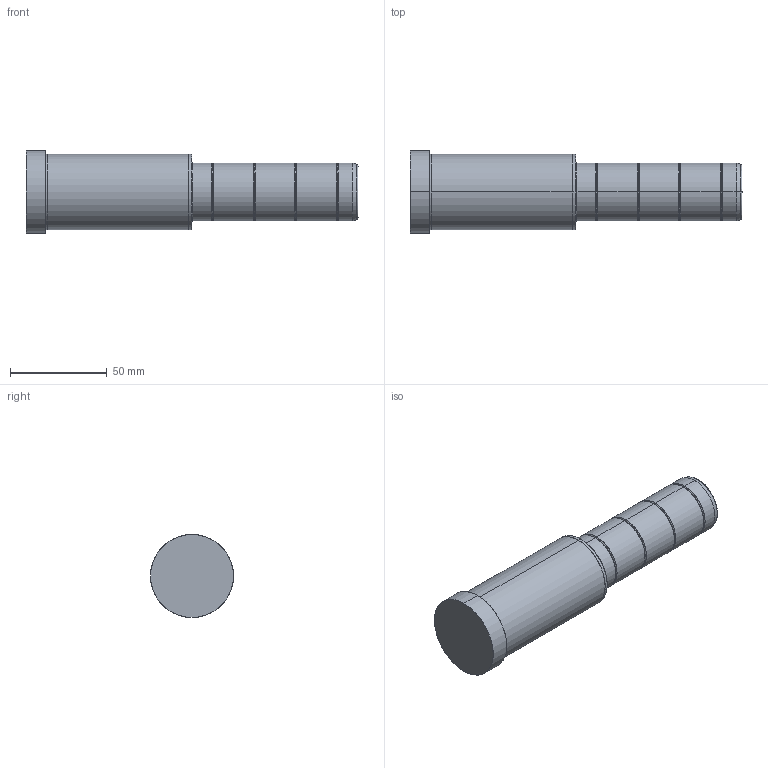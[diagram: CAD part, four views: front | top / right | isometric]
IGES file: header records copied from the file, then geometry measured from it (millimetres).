
Start section: SolidWorks IGES file using analytic representation for surfaces
Global section: file name: C:\Documents and Settings\kalite-mail\Desktop\IGS\D02\30\D02 - 30x86x86.IGS; native system: SolidWorks 2008; preprocessor: SolidWorks 2008; author: kalite-mail; date: 080617.093517; units: millimetre
Bounding box: 172 x 43 x 43 mm (x, y, z)
Surface area: 21733.6 mm2 (no closed solid volume)
Topology: 0 solids, 0 shells, 48 faces, 776 edges, 776 vertices
Faces by surface type: bspline 26, revolution 22
